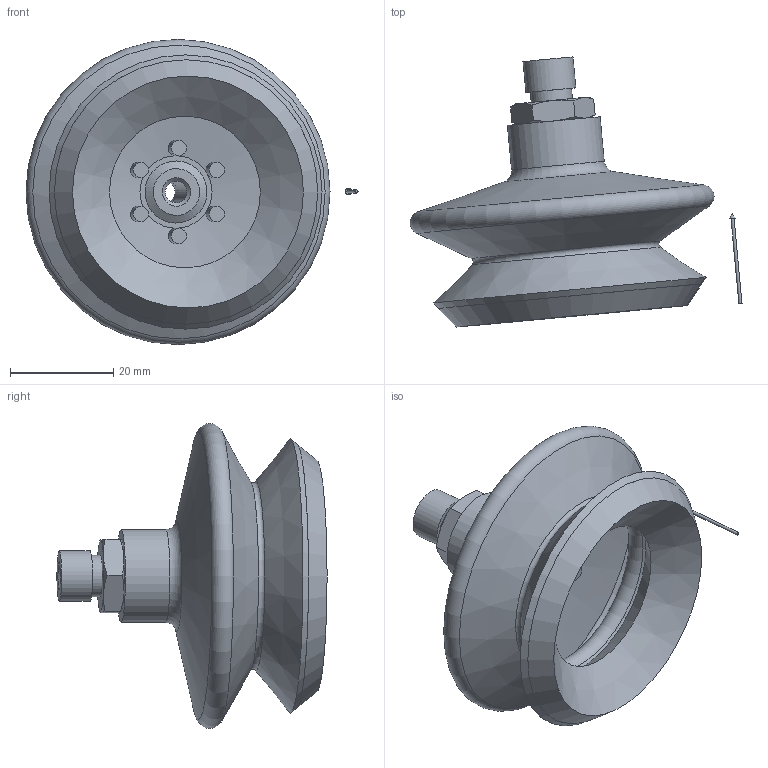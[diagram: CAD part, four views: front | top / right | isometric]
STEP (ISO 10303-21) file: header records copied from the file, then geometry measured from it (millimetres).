
FILE_DESCRIPTION(('STEP AP214'),'1');
FILE_NAME('KIT.08.26.D53.11.stp','2024-07-16T08:02:47',(' '),(' '),'Spatial InterOp 3D',' ',' ');
FILE_SCHEMA(('AUTOMOTIVE_DESIGN { 1 0 10303 214 1 1 1 1 }'));
Length unit declared in the file: millimetre
Products named in the file (6): KIT.08.26.D53.11; CA.08.09.043; CA.08.26.D53.AS; FRECCIA.17.5; 08.26.D53; 08.26.D53.AS
Assembly tree (5 placements, depth 3):
  KIT.08.26.D53.11
    CA.08.09.043
    CA.08.26.D53.AS
      FRECCIA.17.5
      08.26.D53
      08.26.D53.AS
Bounding box: 64.17 x 52.21 x 58.99 mm (x, y, z)
Volume: 21707.9 mm3; surface area: 19822.3 mm2
Topology: 4 solids, 4 shells, 69 faces, 144 edges, 85 vertices
Faces by surface type: cone 27, plane 22, cylinder 15, torus 5
Full cylindrical faces by diameter (mm): 0.6 x1, 3 x6, 4.2 x2, 8 x2, 8.8 x1, 9.7 x1, 12 x1, 18 x1
Entity records: 2793 total; most frequent: CARTESIAN_POINT 667, DIRECTION 278, ORIENTED_EDGE 192, AXIS2_PLACEMENT_3D 136, EDGE_LOOP 112, EDGE_CURVE 96, FACE_OUTER_BOUND 89, STYLED_ITEM 73
